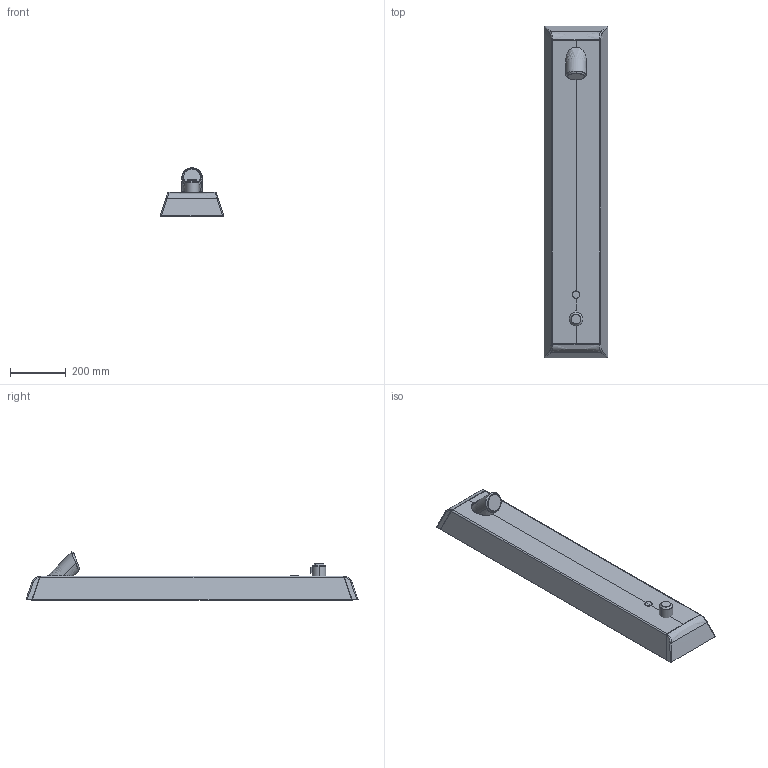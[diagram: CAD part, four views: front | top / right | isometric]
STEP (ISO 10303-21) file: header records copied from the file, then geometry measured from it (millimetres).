
FILE_DESCRIPTION (( 'STEP AP203' ), '1' );
FILE_NAME ('9670FTZ(2026)+96702009(2026).STEP', '2026-02-10T08:45:06', ( '' ), ( '' ), 'SwSTEP 2.0', 'SolidWorks 2024', '' );
FILE_SCHEMA (( 'CONFIG_CONTROL_DESIGN' ));
Length unit declared in the file: millimetre
Products named in the file (1): 9670FTZ(2026)+96702009(2026)
Bounding box: 229.87 x 1196.31 x 173.75 mm (x, y, z)
Volume: 20909101 mm3; surface area: 831102.2 mm2
Topology: 7 solids, 7 shells, 143 faces, 316 edges, 185 vertices
Faces by surface type: bspline 92, cylinder 25, plane 21, cone 5
Entity records: 10662 total; most frequent: CARTESIAN_POINT 8151, ORIENTED_EDGE 624, EDGE_CURVE 312, DIRECTION 307, VERTEX_POINT 185, B_SPLINE_CURVE_WITH_KNOTS 167, EDGE_LOOP 145, ADVANCED_FACE 143
